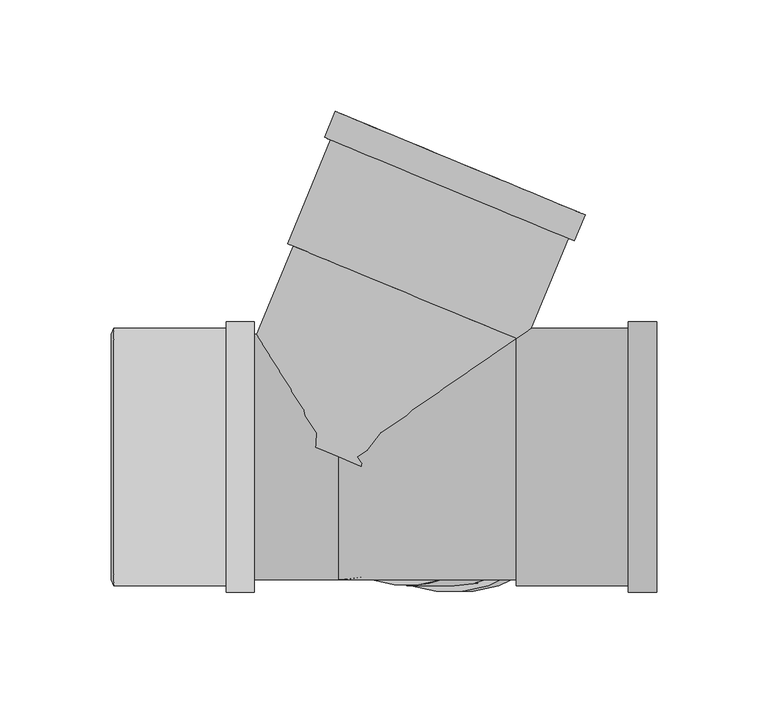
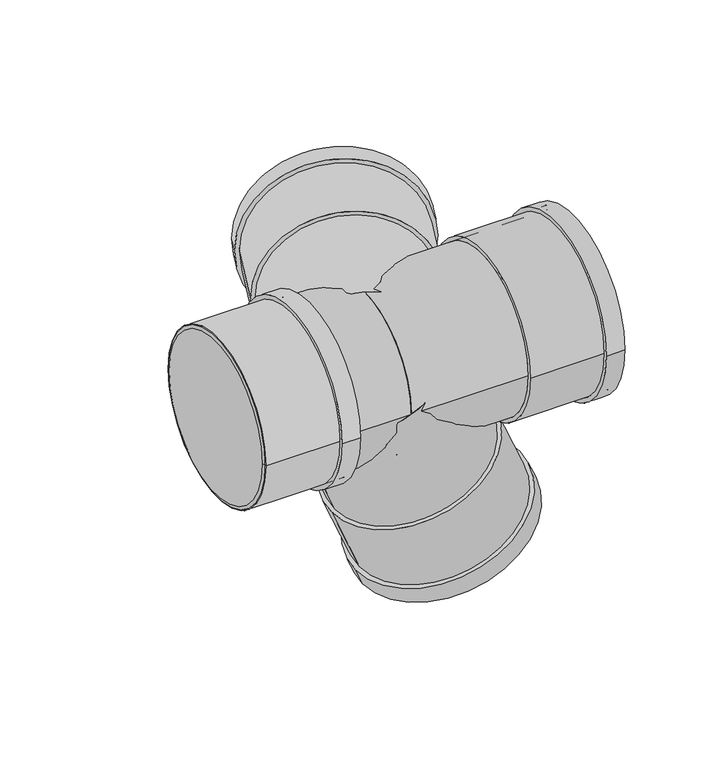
"""IFC4 building model written with IfcOpenShell, lengths in millimetres: pipe fitting geometry, Superdrain HTED-Double corner Branch : Superdrain HTED-Double corner Branch."""

from ifc_helpers import new_model, si_unit, point, frame, origin, origin_2d, place, context, project, spatial, polyline, circle_curve, trimmed, segment, composite_curve, outline, extrude, source, transform, mapped, element, save
from ifc_brep_helpers import plane_surface, revolved_surface, advanced_brep


def pipe_fitting_425869a0(model_context):
    return source(origin(), model_context, "Body", "SolidModel", [
        extrude(outline(composite_curve([segment(trimmed(circle_curve(origin_2d(), 57.75), [point((57.75, 0.0))], [point((-57.75, 0.0))], False, "CARTESIAN"), True, "CONTINUOUS"), segment(trimmed(circle_curve(origin_2d(), 57.75), [point((-57.75, 0.0))], [point((57.75, 0.0))], False, "CARTESIAN"), True, "CONTINUOUS")], self_intersect=False), holes=[composite_curve([segment(trimmed(circle_curve(origin_2d(), 55.0), [point((55.0, 0.0))], [point((-55.0, 0.0))], True, "CARTESIAN"), True, "CONTINUOUS"), segment(trimmed(circle_curve(origin_2d(), 55.0), [point((-55.0, 0.0))], [point((55.0, 0.0))], True, "CARTESIAN"), True, "CONTINUOUS")], self_intersect=False)]), frame((-100.9, 0.0, 0.0), z_axis=(1.0, 0.0, 0.0), x_axis=(0.0, 1.0, 0.0)), (0.0, 0.0, 1.0), 63.0),
        extrude(outline(composite_curve([segment(trimmed(circle_curve(origin_2d(), 60.6375), [point((60.6375, 0.0))], [point((-60.6375, 0.0))], False, "CARTESIAN"), True, "CONTINUOUS"), segment(trimmed(circle_curve(origin_2d(), 60.6375), [point((-60.6375, 0.0))], [point((60.6375, 0.0))], False, "CARTESIAN"), True, "CONTINUOUS")], self_intersect=False), holes=[composite_curve([segment(trimmed(circle_curve(origin_2d(), 55.0), [point((55.0, 0.0))], [point((-55.0, 0.0))], True, "CARTESIAN"), True, "CONTINUOUS"), segment(trimmed(circle_curve(origin_2d(), 55.0), [point((-55.0, 0.0))], [point((55.0, 0.0))], True, "CARTESIAN"), True, "CONTINUOUS")], self_intersect=False)]), frame((-50.5, 0.0, 0.0), z_axis=(1.0, 0.0, 0.0), x_axis=(0.0, 1.0, 0.0)), (0.0, 0.0, 1.0), 12.6),
        advanced_brep(
        [(-101.9, 55.0, 0.0), (-101.9, -55.0, 0.0), (-100.9, 57.75, 0.0), (-100.9, -57.75, 0.0)],
        [
            (0, 1, circle_curve(frame((-101.9, 0.0, 0.0), z_axis=(-1.0, 0.0, 0.0), x_axis=(0.0, 1.0000000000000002, 0.0)), 55.0)),
            (1, 0, circle_curve(frame((-101.9, 0.0, 0.0), z_axis=(-1.0, 0.0, 0.0), x_axis=(0.0, -1.0000000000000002, 0.0)), 55.0)),
            (2, 3, circle_curve(frame((-100.9, 0.0, 0.0), z_axis=(1.0, 0.0, 0.0), x_axis=(0.0, -1.0000000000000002, 0.0)), 57.75)),
            (3, 2, circle_curve(frame((-100.9, 0.0, 0.0), z_axis=(1.0, 0.0, 0.0), x_axis=(0.0, 1.0000000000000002, 0.0)), 57.75)),
            (3, 1),
            (0, 2),
        ],
        [
            plane_surface(frame((-101.9, 0.0, 0.0), z_axis=(-1.0, 0.0, 0.0), x_axis=(0.0, 0.0, -1.0))),
            plane_surface(frame((-100.9, 0.0, 0.0), z_axis=(1.0, 0.0, 0.0), x_axis=(0.0, 0.0, -1.0))),
            revolved_surface(polyline([(-101.9, 55.0, 0.0), (-100.9, 57.75, 0.0)]), (-121.9, 0.0, 0.0), (1.0000000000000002, 0.0, 0.0)),
            revolved_surface(polyline([(-101.9, -55.0, 0.0), (-100.9, -57.75, 0.0)]), (-121.9, 0.0, 0.0), (1.0000000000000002, 0.0, 0.0)),
        ],
        [
            (0, [[1, 2]]),
            (1, [[3, 4]]),
            (2, [[-4, 5, -1, 6]]),
            (3, [[-3, -6, -2, -5]]),
        ],
    ),
        extrude(outline(composite_curve([segment(trimmed(circle_curve(origin_2d(), 60.6375), [point((0.0, -60.6375001))], [point((0.0, 60.6374999))], False, "CARTESIAN"), True, "CONTINUOUS"), segment(trimmed(circle_curve(origin_2d(), 60.6375), [point((0.0, 60.6374999))], [point((0.0, -60.6375001))], False, "CARTESIAN"), True, "CONTINUOUS")], self_intersect=False), holes=[composite_curve([segment(trimmed(circle_curve(origin_2d(), 55.0), [point((0.0, -55.0))], [point((0.0, 54.9999999))], True, "CARTESIAN"), True, "CONTINUOUS"), segment(trimmed(circle_curve(origin_2d(), 55.0), [point((0.0, 54.9999999))], [point((0.0, -55.0))], True, "CARTESIAN"), True, "CONTINUOUS")], self_intersect=False)]), frame((54.5706575, 0.0, -131.7452213), z_axis=(-0.38268343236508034, 0.0, 0.9238795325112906), x_axis=(0.0, -1.0, 0.0)), (0.0, 0.0, 1.0), 12.6),
        extrude(outline(composite_curve([segment(trimmed(circle_curve(origin_2d(), 57.75), [point((0.0, -57.75))], [point((0.0, 57.75))], False, "CARTESIAN"), True, "CONTINUOUS"), segment(trimmed(circle_curve(origin_2d(), 57.75), [point((0.0, 57.75))], [point((0.0, -57.75))], False, "CARTESIAN"), True, "CONTINUOUS")], self_intersect=False), holes=[composite_curve([segment(trimmed(circle_curve(origin_2d(), 55.0), [point((0.0, -55.0))], [point((0.0, 54.9999999))], True, "CARTESIAN"), True, "CONTINUOUS"), segment(trimmed(circle_curve(origin_2d(), 55.0), [point((0.0, 54.9999999))], [point((0.0, -55.0))], True, "CARTESIAN"), True, "CONTINUOUS")], self_intersect=False)]), frame((54.5706575, 0.0, -131.7452213), z_axis=(-0.38268343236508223, 0.0, 0.92387953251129), x_axis=(0.0, -1.0, 0.0)), (0.0, 0.0, 1.0), 63.0),
        extrude(outline(composite_curve([segment(trimmed(circle_curve(origin_2d(), 55.0), [point((0.0, -55.0))], [point((0.0, 55.0))], False, "CARTESIAN"), True, "CONTINUOUS"), segment(trimmed(circle_curve(origin_2d(), 55.0), [point((0.0, 55.0))], [point((0.0, -55.0))], False, "CARTESIAN"), True, "CONTINUOUS")], self_intersect=False)), frame((30.4616012, 0.0, -73.5408108), z_axis=(-0.3826834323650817, 0.0, 0.9238795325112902), x_axis=(0.0, -1.0, 0.0)), (0.0, 0.0, 1.0), 79.6),
        extrude(outline(composite_curve([segment(trimmed(circle_curve(origin_2d(), 60.6375), [point((0.0, 60.6375))], [point((0.0, -60.6375))], False, "CARTESIAN"), True, "CONTINUOUS"), segment(trimmed(circle_curve(origin_2d(), 60.6375), [point((0.0, -60.6375))], [point((0.0, 60.6375))], False, "CARTESIAN"), True, "CONTINUOUS")], self_intersect=False), holes=[composite_curve([segment(trimmed(circle_curve(origin_2d(), 55.0), [point((0.0, 55.0))], [point((0.0, -55.0))], True, "CARTESIAN"), True, "CONTINUOUS"), segment(trimmed(circle_curve(origin_2d(), 55.0), [point((0.0, -55.0))], [point((0.0, 55.0))], True, "CARTESIAN"), True, "CONTINUOUS")], self_intersect=False)]), frame((49.7488462, 120.1043392, 0.0), z_axis=(0.3826834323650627, 0.9238795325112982, 0.0), x_axis=(0.0, 0.0, 1.0)), (0.0, 0.0, 1.0), 12.6),
        extrude(outline(composite_curve([segment(trimmed(circle_curve(origin_2d(), 57.75), [point((0.0, 57.75))], [point((0.0, -57.75))], False, "CARTESIAN"), True, "CONTINUOUS"), segment(trimmed(circle_curve(origin_2d(), 57.75), [point((0.0, -57.75))], [point((0.0, 57.75))], False, "CARTESIAN"), True, "CONTINUOUS")], self_intersect=False), holes=[composite_curve([segment(trimmed(circle_curve(origin_2d(), 55.0), [point((0.0, 55.0))], [point((0.0, -55.0))], True, "CARTESIAN"), True, "CONTINUOUS"), segment(trimmed(circle_curve(origin_2d(), 55.0), [point((0.0, -55.0))], [point((0.0, 55.0))], True, "CARTESIAN"), True, "CONTINUOUS")], self_intersect=False)]), frame((30.4616012, 73.5408108, 0.0), z_axis=(0.3826834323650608, 0.9238795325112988, 0.0), x_axis=(0.0, 0.0, 1.0)), (0.0, 0.0, 1.0), 63.0),
        extrude(outline(composite_curve([segment(trimmed(circle_curve(origin_2d(), 55.0), [point((0.0, 55.0))], [point((0.0, -55.0))], False, "CARTESIAN"), True, "CONTINUOUS"), segment(trimmed(circle_curve(origin_2d(), 55.0), [point((0.0, -55.0))], [point((0.0, 55.0))], False, "CARTESIAN"), True, "CONTINUOUS")], self_intersect=False)), frame((0.0, 0.0, 0.0), z_axis=(0.3826834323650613, 0.9238795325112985, 0.0), x_axis=(0.0, 0.0, 1.0)), (0.0, 0.0, 1.0), 79.6),
        extrude(outline(composite_curve([segment(trimmed(circle_curve(origin_2d(), 60.6375), [point((-60.6375, 0.0))], [point((60.6375, 0.0))], False, "CARTESIAN"), True, "CONTINUOUS"), segment(trimmed(circle_curve(origin_2d(), 60.6375), [point((60.6375, 0.0))], [point((-60.6375, 0.0))], False, "CARTESIAN"), True, "CONTINUOUS")], self_intersect=False), holes=[composite_curve([segment(trimmed(circle_curve(origin_2d(), 57.75), [point((-57.75, 0.0))], [point((57.75, 0.0))], True, "CARTESIAN"), True, "CONTINUOUS"), segment(trimmed(circle_curve(origin_2d(), 57.75), [point((57.75, 0.0))], [point((-57.75, 0.0))], True, "CARTESIAN"), True, "CONTINUOUS")], self_intersect=False)]), frame((130.0, 0.0, 0.0), z_axis=(1.0, 0.0, 0.0), x_axis=(0.0, 1.0, 0.0)), (0.0, 0.0, 1.0), 12.6),
        extrude(outline(composite_curve([segment(trimmed(circle_curve(origin_2d(), 57.75), [point((-57.75, 0.0))], [point((57.75, 0.0))], False, "CARTESIAN"), True, "CONTINUOUS"), segment(trimmed(circle_curve(origin_2d(), 57.75), [point((57.75, 0.0))], [point((-57.75, 0.0))], False, "CARTESIAN"), True, "CONTINUOUS")], self_intersect=False), holes=[composite_curve([segment(trimmed(circle_curve(origin_2d(), 55.0), [point((-55.0, 0.0))], [point((55.0, 0.0))], True, "CARTESIAN"), True, "CONTINUOUS"), segment(trimmed(circle_curve(origin_2d(), 55.0), [point((55.0, 0.0))], [point((-55.0, 0.0))], True, "CARTESIAN"), True, "CONTINUOUS")], self_intersect=False)]), frame((79.6, 0.0, 0.0), z_axis=(1.0, 0.0, 0.0), x_axis=(0.0, 1.0, 0.0)), (0.0, 0.0, 1.0), 63.0),
        extrude(outline(composite_curve([segment(trimmed(circle_curve(origin_2d(), 55.0), [point((-55.0, 0.0))], [point((55.0, 0.0))], False, "CARTESIAN"), True, "CONTINUOUS"), segment(trimmed(circle_curve(origin_2d(), 55.0), [point((55.0, 0.0))], [point((-55.0, 0.0))], False, "CARTESIAN"), True, "CONTINUOUS")], self_intersect=False)), frame((0.0, 0.0, 0.0), z_axis=(1.0, 0.0, 0.0), x_axis=(0.0, 1.0, 0.0)), (0.0, 0.0, 1.0), 79.6),
        extrude(outline(composite_curve([segment(trimmed(circle_curve(origin_2d(), 55.0), [point((-55.0, 0.0))], [point((55.0, 0.0))], False, "CARTESIAN"), True, "CONTINUOUS"), segment(trimmed(circle_curve(origin_2d(), 55.0), [point((55.0, 0.0))], [point((-55.0, 0.0))], False, "CARTESIAN"), True, "CONTINUOUS")], self_intersect=False)), frame((-100.9, 0.0, 0.0), z_axis=(1.0, 0.0, 0.0), x_axis=(0.0, 1.0, 0.0)), (0.0, 0.0, 1.0), 100.9),
    ])


if __name__ == "__main__":
    model = new_model("IFC4")
    model_context = context("Model", 3, world=origin())
    ifc_project = project(units=[si_unit("LENGTHUNIT", "METRE", prefix="MILLI")], contexts=[model_context])
    site = spatial("IfcSite", under=ifc_project)
    building = spatial("IfcBuilding", under=site)
    placement = place(None, origin())
    pipe_fitting_shape = pipe_fitting_425869a0(model_context)
    element("IfcPipeFitting", 1, ObjectType="Superdrain HTED-Double corner Branch : Superdrain HTED-Double corner Branch", at=placement, inside=building, context=model_context, shape_type="MappedRepresentation", body=[
        mapped(pipe_fitting_shape, transform((0.0, 0.0, 0.0), x_axis=(1.0, 0.0, 0.0), y_axis=(0.0, 1.0, 0.0), z_axis=(0.0, 0.0, 1.0))),
    ])
    save(model, "model.ifc")
